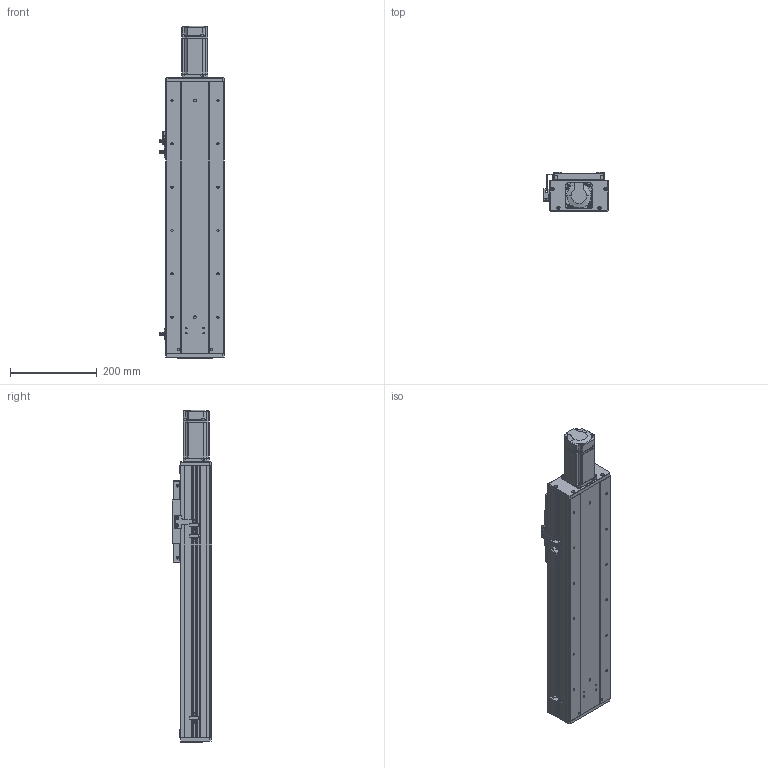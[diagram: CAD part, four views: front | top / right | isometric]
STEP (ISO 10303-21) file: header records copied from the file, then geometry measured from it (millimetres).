
FILE_DESCRIPTION (( 'STEP AP203' ), '1' );
FILE_NAME ('RY140F-L2020-300-MK.SLDASM_350.step', '2021-03-02T06:23:46', ( '盈信电脑' ), ( '东莞市道滘镇水果街19号' ), 'SwSTEP 2.0', 'SolidWorks 2012', '' );
FILE_SCHEMA (( 'CONFIG_CONTROL_DESIGN' ));
Products named in the file (18): RY140F-L2020-300-MK.SLDASM_350; 侐源滅袉蝶; 滅袉蝶18-10; RY140F-672覜茼んえ; 侂狟400W侜督萇儂; RY140F-詩湍揤え; 覜茼ん672; RY140F-后盖板(铝件）; RY140F-直连型材铝滑块(16丝杆); RY140F-直连前盖板(铝件）; 15; RY100F-詩湍揤踡謫; RY140F-滅鳥奻裔; RY140F-詩湍幗謫粣; RY140F-300-MK眻蟀倰第菁釱_350; RY140F-直连型材铝滑块连接座; RY140F-300-MK眻蟀倰第奻裔啣_350; RY140F-300-MK眻蟀詩湍_350
Assembly tree (22 placements, depth 3):
  RY140F-L2020-300-MK.SLDASM_350
    RY140F-300-MK眻蟀倰第菁釱_350
    RY140F-300-MK眻蟀倰第奻裔啣_350  x2
    RY140F-300-MK眻蟀詩湍_350
    RY140F-直连型材铝滑块连接座
    RY140F-滅鳥奻裔
    RY140F-詩湍幗謫粣
    RY100F-詩湍揤踡謫
    RY140F-直连型材铝滑块(16丝杆)
    RY140F-直连前盖板(铝件）
    RY140F-后盖板(铝件）
    侂狟400W侜督萇儂
      15
    覜茼ん672  x3
    RY140F-672覜茼んえ
    RY140F-詩湍揤え  x2
    滅袉蝶18-10
    侐源滅袉蝶  x2
Bounding box: 148.7 x 91 x 765.5 mm (x, y, z)
Volume: 2832964.9 mm3; surface area: 952624.6 mm2
Topology: 21 solids, 21 shells, 1896 faces, 5225 edges, 3364 vertices
Faces by surface type: cylinder 854, plane 854, cone 166, bspline 18, torus 4
Entity records: 54990 total; most frequent: CARTESIAN_POINT 11097, DIRECTION 8920, ORIENTED_EDGE 8622, EDGE_CURVE 4311, AXIS2_PLACEMENT_3D 3175, VERTEX_POINT 2832, VECTOR 2570, LINE 2570
